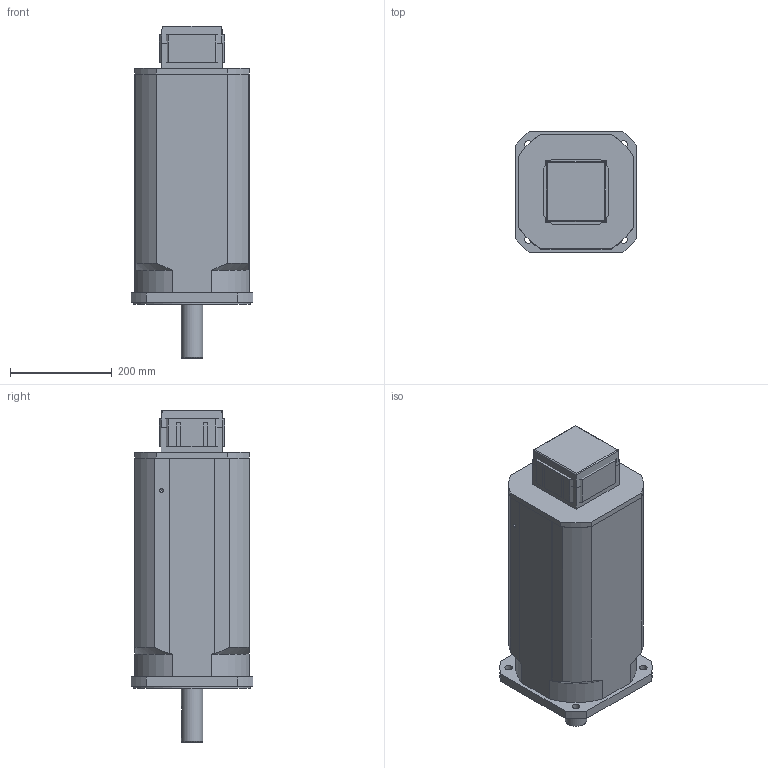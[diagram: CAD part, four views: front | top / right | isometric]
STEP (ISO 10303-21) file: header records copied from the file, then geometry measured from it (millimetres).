
FILE_DESCRIPTION(/* description */ ('Alibre Inc.'),/* implementation_level */ '2;1');
FILE_NAME(/* name */ 'export0',/* time_stamp */ '2011-10-27T07:57:32+02:00',/* author */ (''),/* organization */ (''),/* preprocessor_version */ 'ST-DEVELOPER v12',/* originating_system */ 'Alibre',/* authorisation */ '');
FILE_SCHEMA (('ALIBRE_SCHEMA','CONFIG_CONTROL_DESIGN'));
Length unit declared in the file: millimetre
Products named in the file (9): ID_1
Bounding box: 240 x 240 x 653.5 mm (x, y, z)
Volume: 24006330.9 mm3; surface area: 753648.7 mm2
Topology: 8 solids, 8 shells, 275 faces, 708 edges, 460 vertices
Faces by surface type: plane 130, cylinder 111, torus 15, cone 14, bspline 5
Full cylindrical faces by diameter (mm): 2.7 x4, 6.647 x3, 10.106 x1, 15 x5, 20 x6, 22 x2, 25 x2, 26.75 x1, 30 x2, 42 x1, 45 x1, 230 x1
Entity records: 27640 total; most frequent: CARTESIAN_POINT 6573, DIRECTION 3228, ORIENTED_EDGE 3194, EDGE_CURVE 1597, AXIS2_PLACEMENT_3D 1313, VERTEX_POINT 1115, VECTOR 947, EDGE_LOOP 890
